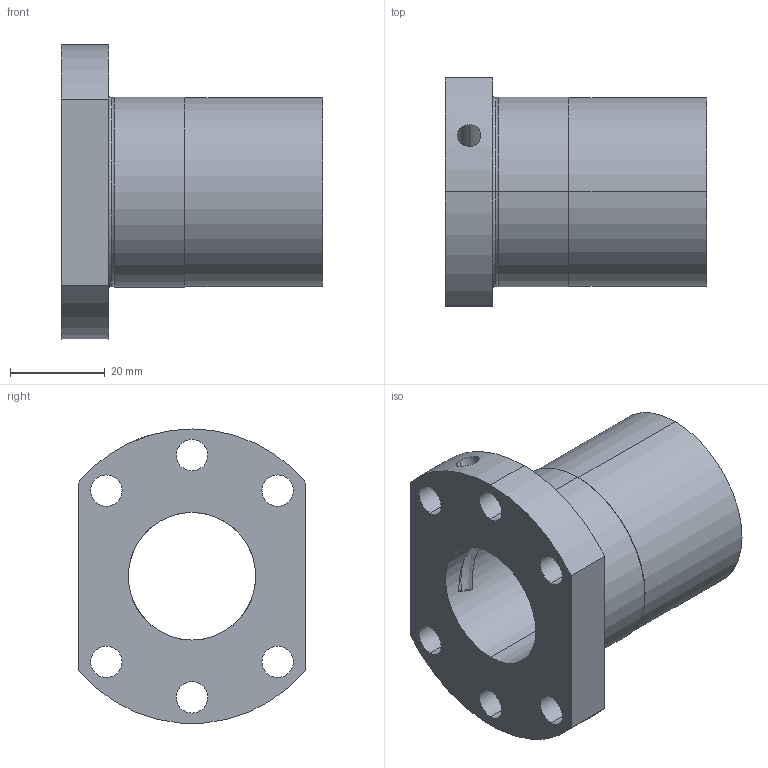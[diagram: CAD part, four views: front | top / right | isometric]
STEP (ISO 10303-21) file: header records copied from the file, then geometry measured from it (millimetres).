
FILE_DESCRIPTION (( 'STEP AP214' ), '1' );
FILE_NAME ('LLE2525-F.STEP', '2020-12-17T06:38:23', ( 'user' ), ( 'datathink' ), 'SwSTEP 2.0', 'SolidWorks 2013', '' );
FILE_SCHEMA (( 'AUTOMOTIVE_DESIGN' ));
Length unit declared in the file: millimetre
Products named in the file (1): LLE2525-F
Bounding box: 55 x 48 x 61.9 mm (x, y, z)
Volume: 48138.1 mm3; surface area: 17654.9 mm2
Topology: 1 solids, 1 shells, 41 faces, 106 edges, 69 vertices
Faces by surface type: cylinder 27, plane 8, torus 4, bspline 2
Entity records: 2154 total; most frequent: CARTESIAN_POINT 1066, DIRECTION 222, ORIENTED_EDGE 212, EDGE_CURVE 106, AXIS2_PLACEMENT_3D 94, VERTEX_POINT 69, EDGE_LOOP 59, CIRCLE 54
